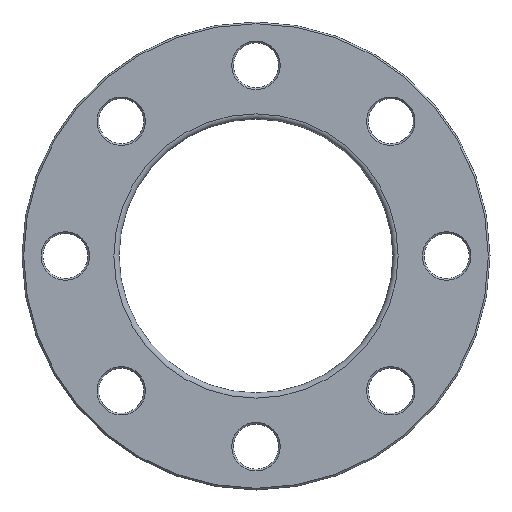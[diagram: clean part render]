
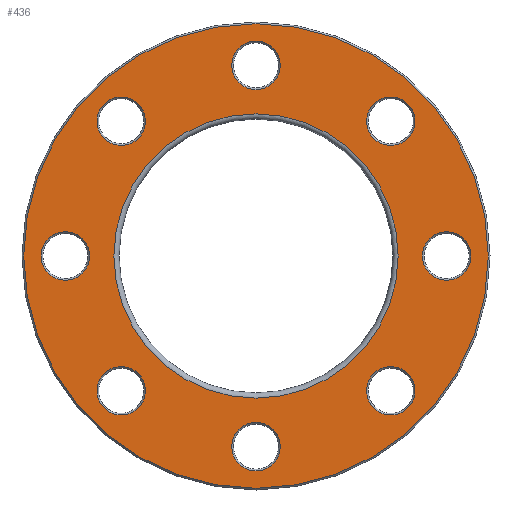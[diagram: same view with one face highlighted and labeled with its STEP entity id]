
A CAD part, front view. The second image highlights one B-rep face of the part: STEP entity #436.
In plain terms, the highlighted planar face has unit normal (0, -1, 0).
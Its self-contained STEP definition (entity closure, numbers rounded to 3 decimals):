
#23=PLANE('',#516);
#98=ORIENTED_EDGE('',*,*,#157,.T.);
#99=ORIENTED_EDGE('',*,*,#158,.T.);
#100=ORIENTED_EDGE('',*,*,#124,.T.);
#101=ORIENTED_EDGE('',*,*,#128,.T.);
#102=ORIENTED_EDGE('',*,*,#132,.T.);
#103=ORIENTED_EDGE('',*,*,#136,.T.);
#104=ORIENTED_EDGE('',*,*,#140,.T.);
#105=ORIENTED_EDGE('',*,*,#144,.T.);
#106=ORIENTED_EDGE('',*,*,#148,.T.);
#107=ORIENTED_EDGE('',*,*,#159,.T.);
#124=EDGE_CURVE('',#164,#164,#204,.T.);
#128=EDGE_CURVE('',#168,#168,#208,.T.);
#132=EDGE_CURVE('',#172,#172,#212,.T.);
#136=EDGE_CURVE('',#176,#176,#216,.T.);
#140=EDGE_CURVE('',#180,#180,#220,.T.);
#144=EDGE_CURVE('',#184,#184,#224,.T.);
#148=EDGE_CURVE('',#188,#188,#228,.T.);
#157=EDGE_CURVE('',#197,#197,#237,.F.);
#158=EDGE_CURVE('',#198,#198,#238,.T.);
#159=EDGE_CURVE('',#199,#199,#239,.T.);
#164=VERTEX_POINT('',#683);
#168=VERTEX_POINT('',#694);
#172=VERTEX_POINT('',#705);
#176=VERTEX_POINT('',#716);
#180=VERTEX_POINT('',#727);
#184=VERTEX_POINT('',#738);
#188=VERTEX_POINT('',#749);
#197=VERTEX_POINT('',#772);
#198=VERTEX_POINT('',#774);
#199=VERTEX_POINT('',#776);
#204=CIRCLE('',#461,14.);
#208=CIRCLE('',#468,14.);
#212=CIRCLE('',#475,14.);
#216=CIRCLE('',#482,14.);
#220=CIRCLE('',#489,14.);
#224=CIRCLE('',#496,14.);
#228=CIRCLE('',#503,14.);
#237=CIRCLE('',#517,134.);
#238=CIRCLE('',#518,82.);
#239=CIRCLE('',#519,14.);
#298=EDGE_LOOP('',(#98));
#299=EDGE_LOOP('',(#99));
#300=EDGE_LOOP('',(#100));
#301=EDGE_LOOP('',(#101));
#302=EDGE_LOOP('',(#102));
#303=EDGE_LOOP('',(#103));
#304=EDGE_LOOP('',(#104));
#305=EDGE_LOOP('',(#105));
#306=EDGE_LOOP('',(#106));
#307=EDGE_LOOP('',(#107));
#378=FACE_BOUND('',#298,.T.);
#379=FACE_BOUND('',#299,.T.);
#380=FACE_BOUND('',#300,.T.);
#381=FACE_BOUND('',#301,.T.);
#382=FACE_BOUND('',#302,.T.);
#383=FACE_BOUND('',#303,.T.);
#384=FACE_BOUND('',#304,.T.);
#385=FACE_BOUND('',#305,.T.);
#386=FACE_BOUND('',#306,.T.);
#387=FACE_BOUND('',#307,.T.);
#436=ADVANCED_FACE('',(#378,#379,#380,#381,#382,#383,#384,#385,#386,#387),
#23,.F.);
#461=AXIS2_PLACEMENT_3D('',#682,#539,#540);
#468=AXIS2_PLACEMENT_3D('',#693,#553,#554);
#475=AXIS2_PLACEMENT_3D('',#704,#567,#568);
#482=AXIS2_PLACEMENT_3D('',#715,#581,#582);
#489=AXIS2_PLACEMENT_3D('',#726,#595,#596);
#496=AXIS2_PLACEMENT_3D('',#737,#609,#610);
#503=AXIS2_PLACEMENT_3D('',#748,#623,#624);
#516=AXIS2_PLACEMENT_3D('',#770,#649,#650);
#517=AXIS2_PLACEMENT_3D('',#771,#651,#652);
#518=AXIS2_PLACEMENT_3D('',#773,#653,#654);
#519=AXIS2_PLACEMENT_3D('',#775,#655,#656);
#539=DIRECTION('',(0.,1.,0.));
#540=DIRECTION('',(0.707,0.,0.707));
#553=DIRECTION('',(0.,1.,0.));
#554=DIRECTION('',(0.,0.,1.));
#567=DIRECTION('',(0.,1.,0.));
#568=DIRECTION('',(-0.707,0.,0.707));
#581=DIRECTION('',(0.,1.,0.));
#582=DIRECTION('',(-1.,0.,0.));
#595=DIRECTION('',(0.,1.,0.));
#596=DIRECTION('',(-0.707,0.,-0.707));
#609=DIRECTION('',(0.,1.,0.));
#610=DIRECTION('',(0.,0.,-1.));
#623=DIRECTION('',(0.,1.,0.));
#624=DIRECTION('',(0.707,0.,-0.707));
#649=DIRECTION('',(0.,1.,0.));
#650=DIRECTION('',(0.,0.,1.));
#651=DIRECTION('',(0.,1.,0.));
#652=DIRECTION('',(0.,0.,1.));
#653=DIRECTION('',(0.,1.,0.));
#654=DIRECTION('',(0.,0.,1.));
#655=DIRECTION('',(0.,1.,0.));
#656=DIRECTION('',(1.,0.,0.));
#682=CARTESIAN_POINT('',(-77.782,0.,77.782));
#683=CARTESIAN_POINT('',(-67.882,0.,87.681));
#693=CARTESIAN_POINT('',(-110.,0.,0.));
#694=CARTESIAN_POINT('',(-110.,0.,14.));
#704=CARTESIAN_POINT('',(-77.782,0.,-77.782));
#705=CARTESIAN_POINT('',(-87.681,0.,-67.882));
#715=CARTESIAN_POINT('',(0.,0.,-110.));
#716=CARTESIAN_POINT('',(-14.,0.,-110.));
#726=CARTESIAN_POINT('',(77.782,0.,-77.782));
#727=CARTESIAN_POINT('',(67.882,0.,-87.681));
#737=CARTESIAN_POINT('',(110.,0.,0.));
#738=CARTESIAN_POINT('',(110.,0.,-14.));
#748=CARTESIAN_POINT('',(77.782,0.,77.782));
#749=CARTESIAN_POINT('',(87.681,0.,67.882));
#770=CARTESIAN_POINT('',(0.,0.,0.));
#771=CARTESIAN_POINT('',(0.,0.,0.));
#772=CARTESIAN_POINT('',(0.,0.,134.));
#773=CARTESIAN_POINT('',(0.,0.,0.));
#774=CARTESIAN_POINT('',(0.,0.,82.));
#775=CARTESIAN_POINT('',(0.,0.,110.));
#776=CARTESIAN_POINT('',(14.,0.,110.));
